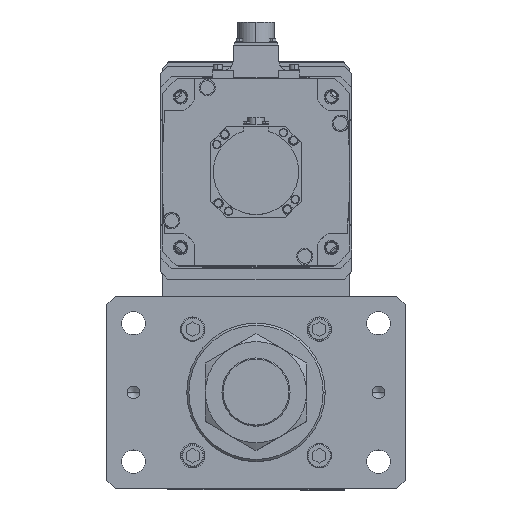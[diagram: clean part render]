
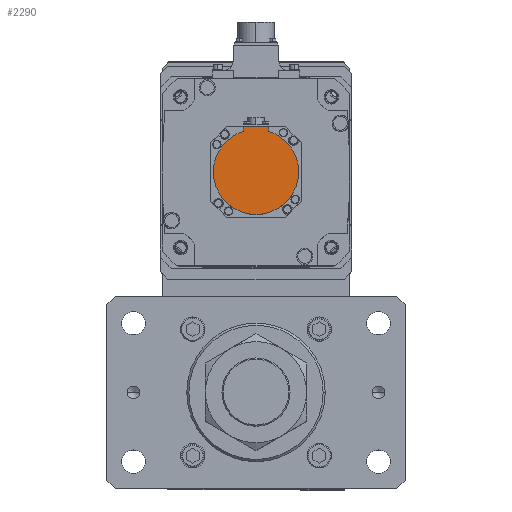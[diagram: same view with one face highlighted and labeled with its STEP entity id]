
A CAD part, top view. The second image highlights one B-rep face of the part: STEP entity #2290.
In plain terms, the highlighted planar face has unit normal (0, 0, 1) as drawn and (0, 0, -1) by its records, which use the part's own axes.
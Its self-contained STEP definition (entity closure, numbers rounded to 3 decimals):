
#434 = DIRECTION ( 'NONE',  ( 0., 0., 1. ) ) ;
#1414 = CARTESIAN_POINT ( 'NONE',  ( -40., 0., -178.5 ) ) ;
#1428 = AXIS2_PLACEMENT_3D ( 'NONE', #44640, #32411, #32580 ) ;
#2290 = ADVANCED_FACE ( 'NONE', ( #19235 ), #24840, .F. ) ;
#3596 = AXIS2_PLACEMENT_3D ( 'NONE', #52559, #28316, #48332 ) ;
#4423 = LINE ( 'NONE', #26782, #17136 ) ;
#6132 = DIRECTION ( 'NONE',  ( 1., 0., 0. ) ) ;
#6511 = VERTEX_POINT ( 'NONE', #41517 ) ;
#8651 = CARTESIAN_POINT ( 'NONE',  ( -12., -38.158, -178.5 ) ) ;
#8717 = VERTEX_POINT ( 'NONE', #1414 ) ;
#11218 = CARTESIAN_POINT ( 'NONE',  ( -12., -42.5, -178.5 ) ) ;
#14041 = EDGE_CURVE ( 'NONE', #22387, #27301, #49178, .T. ) ;
#14268 = DIRECTION ( 'NONE',  ( 0., 0., 1. ) ) ;
#14797 = CARTESIAN_POINT ( 'NONE',  ( 0., 0., -178.5 ) ) ;
#17136 = VECTOR ( 'NONE', #38999, 1000. ) ;
#19231 = ORIENTED_EDGE ( 'NONE', *, *, #45050, .F. ) ;
#19235 = FACE_OUTER_BOUND ( 'NONE', #20375, .T. ) ;
#19498 = EDGE_CURVE ( 'NONE', #6511, #8717, #25806, .T. ) ;
#20375 = EDGE_LOOP ( 'NONE', ( #50126, #22586, #42316, #19231, #43105, #51756 ) ) ;
#21243 = VECTOR ( 'NONE', #31579, 1000. ) ;
#21684 = CIRCLE ( 'NONE', #27631, 40. ) ;
#22387 = VERTEX_POINT ( 'NONE', #40835 ) ;
#22586 = ORIENTED_EDGE ( 'NONE', *, *, #46665, .F. ) ;
#23943 = CARTESIAN_POINT ( 'NONE',  ( 12., -38.158, -178.5 ) ) ;
#24840 = PLANE ( 'NONE',  #34707 ) ;
#25005 = CARTESIAN_POINT ( 'NONE',  ( 0., -1.249, -178.5 ) ) ;
#25806 = CIRCLE ( 'NONE', #3596, 40. ) ;
#25824 = DIRECTION ( 'NONE',  ( -1., 0., 0. ) ) ;
#26782 = CARTESIAN_POINT ( 'NONE',  ( 12., -1.249, -178.5 ) ) ;
#27301 = VERTEX_POINT ( 'NONE', #11218 ) ;
#27353 = CARTESIAN_POINT ( 'NONE',  ( -12., -40.329, -178.5 ) ) ;
#27631 = AXIS2_PLACEMENT_3D ( 'NONE', #14797, #14268, #6132 ) ;
#28316 = DIRECTION ( 'NONE',  ( 0., 0., 1. ) ) ;
#28728 = DIRECTION ( 'NONE',  ( 1., 0., 0. ) ) ;
#31579 = DIRECTION ( 'NONE',  ( 0., 1., 0. ) ) ;
#32411 = DIRECTION ( 'NONE',  ( 0., 0., 1. ) ) ;
#32580 = DIRECTION ( 'NONE',  ( 1., 0., 0. ) ) ;
#34707 = AXIS2_PLACEMENT_3D ( 'NONE', #25005, #434, #28728 ) ;
#36148 = CIRCLE ( 'NONE', #1428, 40. ) ;
#36158 = EDGE_CURVE ( 'NONE', #27301, #47711, #48476, .T. ) ;
#38999 = DIRECTION ( 'NONE',  ( 0., 1., 0. ) ) ;
#39523 = EDGE_CURVE ( 'NONE', #22387, #46611, #4423, .T. ) ;
#40327 = VECTOR ( 'NONE', #25824, 1000. ) ;
#40835 = CARTESIAN_POINT ( 'NONE',  ( 12., -42.5, -178.5 ) ) ;
#41416 = CARTESIAN_POINT ( 'NONE',  ( 0., -42.5, -178.5 ) ) ;
#41517 = CARTESIAN_POINT ( 'NONE',  ( 40., 0., -178.5 ) ) ;
#42316 = ORIENTED_EDGE ( 'NONE', *, *, #19498, .F. ) ;
#43105 = ORIENTED_EDGE ( 'NONE', *, *, #39523, .F. ) ;
#44640 = CARTESIAN_POINT ( 'NONE',  ( 0., 0., -178.5 ) ) ;
#45050 = EDGE_CURVE ( 'NONE', #46611, #6511, #21684, .T. ) ;
#46611 = VERTEX_POINT ( 'NONE', #23943 ) ;
#46665 = EDGE_CURVE ( 'NONE', #8717, #47711, #36148, .T. ) ;
#47711 = VERTEX_POINT ( 'NONE', #8651 ) ;
#48332 = DIRECTION ( 'NONE',  ( 1., 0., 0. ) ) ;
#48476 = LINE ( 'NONE', #27353, #21243 ) ;
#49178 = LINE ( 'NONE', #41416, #40327 ) ;
#50126 = ORIENTED_EDGE ( 'NONE', *, *, #36158, .T. ) ;
#51756 = ORIENTED_EDGE ( 'NONE', *, *, #14041, .T. ) ;
#52559 = CARTESIAN_POINT ( 'NONE',  ( 0., 0., -178.5 ) ) ;
